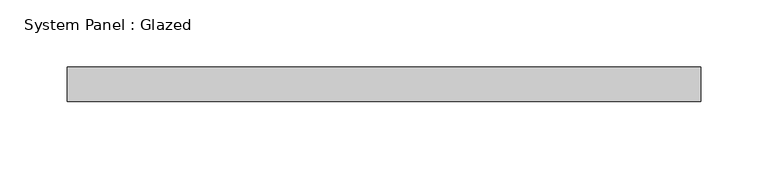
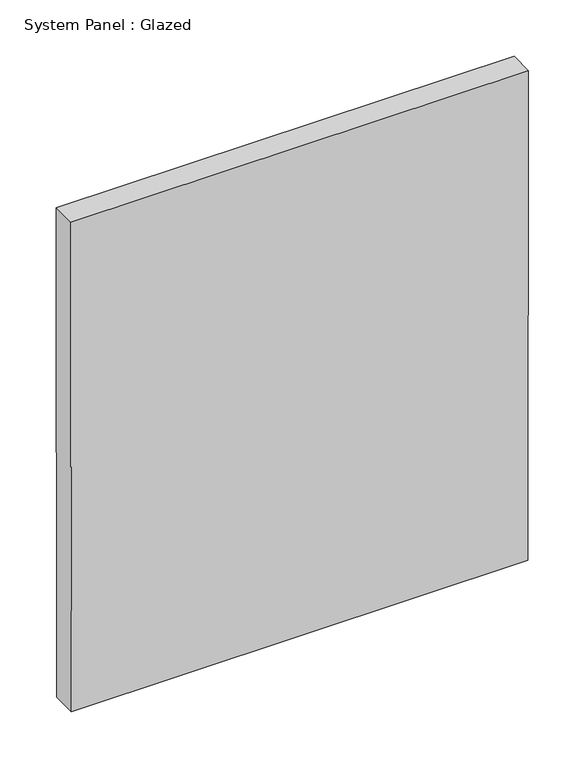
"""IFC4 building model written with IfcOpenShell, lengths in millimetres: plate geometry, System Panel : Glazed."""

from ifc_helpers import new_model, si_unit, frame, origin, place, context, project, spatial, polyline, outline, extrude, source, transform, mapped, element, save


def system_panel_glazed_d1219a01(model_context):
    return source(origin(), model_context, "Body", "SweptSolid", [
        extrude(outline(polyline([(0.0, -234.0733312), (0.0, 234.0733312), (530.688359, 234.6341473), (530.688359, -234.6341473), (0.0, -234.0733312)])), frame((0.0, 19.05, 0.0), z_axis=(0.0, 1.0, 0.0), x_axis=(0.0, 0.0, 1.0)), (0.0, 0.0, 1.0), 25.4),
    ])


if __name__ == "__main__":
    model = new_model("IFC4")
    model_context = context("Model", 3, world=origin())
    ifc_project = project(units=[si_unit("LENGTHUNIT", "METRE", prefix="MILLI")], contexts=[model_context])
    site = spatial("IfcSite", under=ifc_project)
    building = spatial("IfcBuilding", under=site)
    placement = place(None, origin())
    system_panel_glazed_shape = system_panel_glazed_d1219a01(model_context)
    element("IfcPlate", 1, ObjectType="System Panel : Glazed", at=placement, inside=building, context=model_context, shape_type="MappedRepresentation", body=[
        mapped(system_panel_glazed_shape, transform((0.0, 0.0, 0.0), x_axis=(1.0, 0.0, 0.0), y_axis=(0.0, 1.0, 0.0), z_axis=(0.0, 0.0, 1.0))),
    ])
    save(model, "model.ifc")
